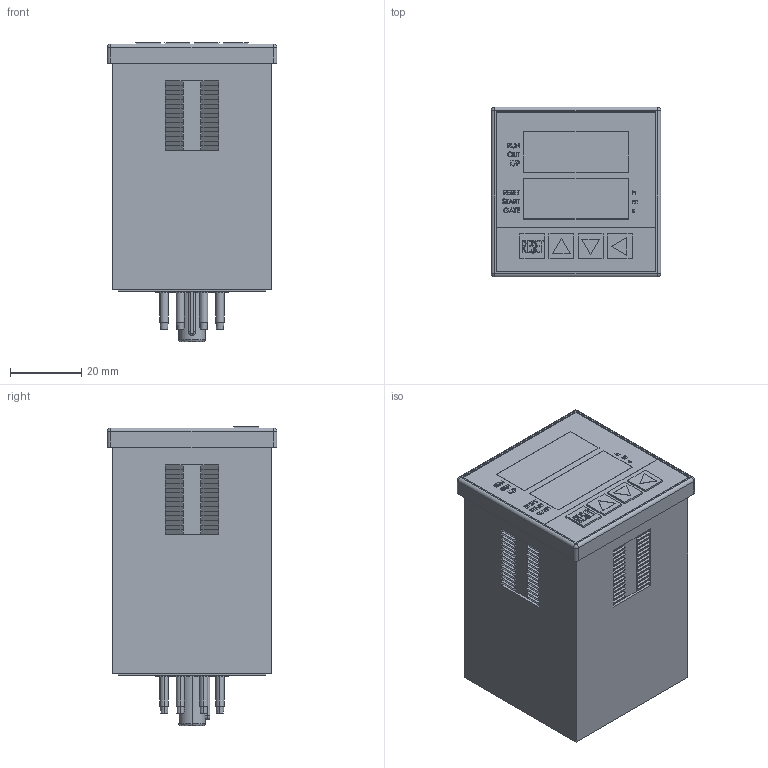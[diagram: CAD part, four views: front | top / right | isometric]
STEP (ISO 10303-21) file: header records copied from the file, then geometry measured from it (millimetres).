
FILE_DESCRIPTION (( 'STEP AP203' ), '1' );
FILE_NAME ('TD4S-8A.STEP', '2019-02-13T20:31:03', ( '' ), ( '' ), 'SwSTEP 2.0', 'SolidWorks 2012', '' );
FILE_SCHEMA (( 'CONFIG_CONTROL_DESIGN' ));
Length unit declared in the file: millimetre
Products named in the file (1): TD4S-8A
Bounding box: 47.8 x 47.8 x 84.15 mm (x, y, z)
Volume: 138826.4 mm3; surface area: 19208.7 mm2
Topology: 1 solids, 1 shells, 1105 faces, 2592 edges, 1560 vertices
Faces by surface type: plane 893, bspline 133, cylinder 55, cone 16, torus 4, sphere 4
Entity records: 37116 total; most frequent: CARTESIAN_POINT 12844, ORIENTED_EDGE 5176, DIRECTION 4415, EDGE_CURVE 2588, VECTOR 2173, LINE 2173, VERTEX_POINT 1560, EDGE_LOOP 1180
